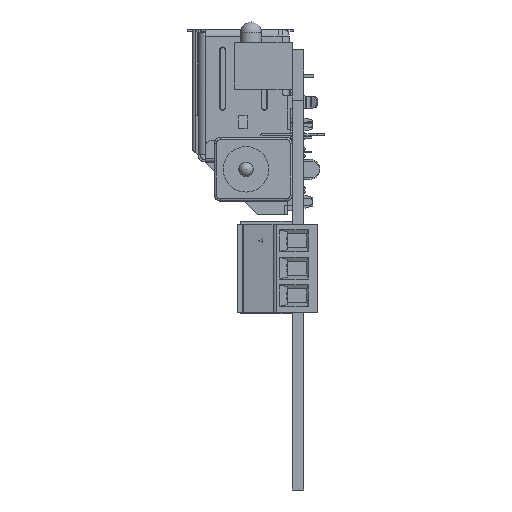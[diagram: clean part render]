
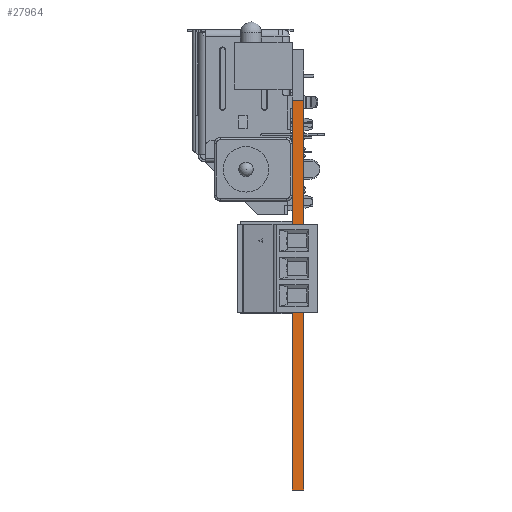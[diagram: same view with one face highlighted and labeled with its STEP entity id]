
A CAD part, left-side view. The second image highlights one B-rep face of the part: STEP entity #27964.
In plain terms, the highlighted planar face has unit normal (-1, 0, 0).
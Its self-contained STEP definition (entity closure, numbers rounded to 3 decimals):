
#718=PLANE('',#29864);
#2074=FACE_OUTER_BOUND('',#3801,.T.);
#3801=EDGE_LOOP('',(#20165,#20166,#20167,#20168));
#5600=LINE('',#40938,#8726);
#5667=LINE('',#41314,#8793);
#5673=LINE('',#41325,#8799);
#5675=LINE('',#41328,#8801);
#8726=VECTOR('',#32597,1000.);
#8793=VECTOR('',#33032,1000.);
#8799=VECTOR('',#33040,1000.);
#8801=VECTOR('',#33044,1000.);
#12601=VERTEX_POINT('',#40936);
#12602=VERTEX_POINT('',#40937);
#12726=VERTEX_POINT('',#41312);
#12727=VERTEX_POINT('',#41313);
#15379=EDGE_CURVE('',#12601,#12602,#5600,.T.);
#15565=EDGE_CURVE('',#12726,#12727,#5667,.T.);
#15571=EDGE_CURVE('',#12727,#12601,#5673,.T.);
#15573=EDGE_CURVE('',#12602,#12726,#5675,.T.);
#20165=ORIENTED_EDGE('',*,*,#15565,.T.);
#20166=ORIENTED_EDGE('',*,*,#15571,.T.);
#20167=ORIENTED_EDGE('',*,*,#15379,.T.);
#20168=ORIENTED_EDGE('',*,*,#15573,.T.);
#27964=ADVANCED_FACE('',(#2074),#718,.T.);
#29864=AXIS2_PLACEMENT_3D('',#41327,#33042,#33043);
#32597=DIRECTION('',(0.,0.,1.));
#33032=DIRECTION('',(0.,0.,-1.));
#33040=DIRECTION('',(0.,-1.,0.));
#33042=DIRECTION('center_axis',(-1.,0.,0.));
#33043=DIRECTION('ref_axis',(0.,0.,-1.));
#33044=DIRECTION('',(0.,1.,0.));
#40936=CARTESIAN_POINT('',(-66.85,-6.8,-24.05));
#40937=CARTESIAN_POINT('',(-66.85,-6.8,29.95));
#40938=CARTESIAN_POINT('',(-66.85,-6.8,31.03));
#41312=CARTESIAN_POINT('',(-66.85,-5.2,29.95));
#41313=CARTESIAN_POINT('',(-66.85,-5.2,-24.05));
#41314=CARTESIAN_POINT('',(-66.85,-5.2,31.03));
#41325=CARTESIAN_POINT('',(-66.85,-6.,-24.05));
#41327=CARTESIAN_POINT('Origin',(-66.85,-5.025,31.03));
#41328=CARTESIAN_POINT('',(-66.85,-6.,29.95));
